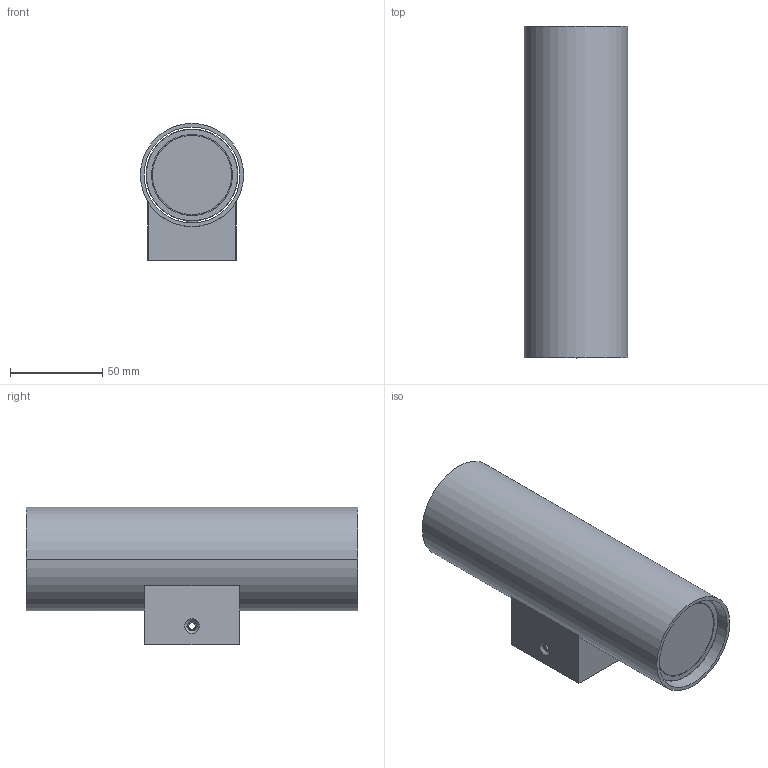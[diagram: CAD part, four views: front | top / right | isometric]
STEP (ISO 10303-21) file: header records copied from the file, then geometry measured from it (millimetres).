
FILE_DESCRIPTION (( 'STEP AP214' ), '1' );
FILE_NAME ('ZOOM-A37640.STEP', '2026-01-15T11:02:51', ( '' ), ( '' ), 'SwSTEP 2.0', 'SolidWorks 2025', '' );
FILE_SCHEMA (( 'AUTOMOTIVE_DESIGN' ));
Length unit declared in the file: millimetre
Products named in the file (11): 00025; M4_JU_HUA_JIE; BREP_WITH_VOIDS_63194; GU10_DENG_TOU; 00022; M4X8-DAI-DIAN_ASM; 00023; 00024; ZOOM-A37640; M4X8-DAI-DIAN; 00021
Assembly tree (16 placements, depth 3):
  ZOOM-A37640
    M4X8-DAI-DIAN_ASM  x4
      M4X8-DAI-DIAN
      M4_JU_HUA_JIE
    00021
    00022
    00023  x2
    00024
    00025
    GU10_DENG_TOU  x2
    BREP_WITH_VOIDS_63194  x2
Bounding box: 56 x 180 x 74.42 mm (x, y, z)
Volume: 133177.8 mm3; surface area: 116866 mm2
Topology: 18 solids, 20 shells, 1046 faces, 2634 edges, 1664 vertices
Faces by surface type: cylinder 327, bspline 312, plane 311, cone 76, torus 12, sphere 8
Entity records: 23449 total; most frequent: CARTESIAN_POINT 11272, ORIENTED_EDGE 2556, DIRECTION 2348, EDGE_CURVE 1278, AXIS2_PLACEMENT_3D 910, VERTEX_POINT 818, EDGE_LOOP 558, VECTOR 528
